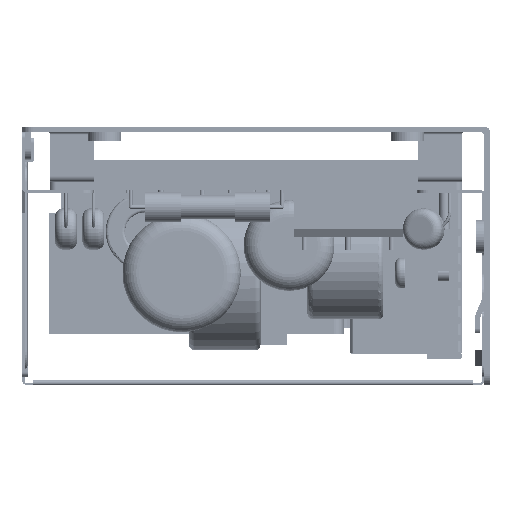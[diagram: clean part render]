
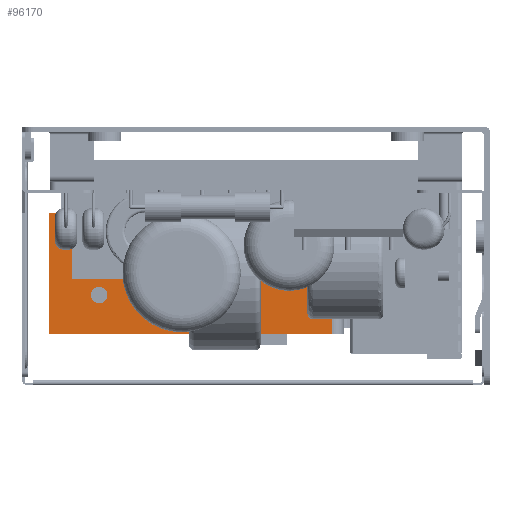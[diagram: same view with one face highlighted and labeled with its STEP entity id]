
A CAD part, front view. The second image highlights one B-rep face of the part: STEP entity #96170.
In plain terms, the highlighted planar face has unit normal (0, -1, 0) as drawn and (-1, 0, 0) by its records, which use the part's own axes.
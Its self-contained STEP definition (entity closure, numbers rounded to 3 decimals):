
#95786=DIRECTION('',(0.,-1.,0.));
#95787=VECTOR('',#95786,51.416);
#95788=CARTESIAN_POINT('',(-17.25,24.666,22.));
#95789=LINE('',#95788,#95787);
#95793=DIRECTION('',(0.,0.,-1.));
#95794=VECTOR('',#95793,22.);
#95795=CARTESIAN_POINT('',(-17.25,-26.75,22.));
#95796=LINE('',#95795,#95794);
#95800=DIRECTION('',(0.,1.,0.));
#95801=VECTOR('',#95800,51.416);
#95802=CARTESIAN_POINT('',(-17.25,-26.75,0.));
#95803=LINE('',#95802,#95801);
#95814=DIRECTION('',(0.,0.,-1.));
#95815=VECTOR('',#95814,22.);
#95816=CARTESIAN_POINT('',(-17.25,24.666,22.));
#95817=LINE('',#95816,#95815);
#96080=CARTESIAN_POINT('',(-17.25,-26.75,22.));
#96081=CARTESIAN_POINT('',(-17.25,-26.75,0.));
#96082=VERTEX_POINT('',#96080);
#96083=VERTEX_POINT('',#96081);
#96088=CARTESIAN_POINT('',(-17.25,24.666,22.));
#96089=CARTESIAN_POINT('',(-17.25,24.666,0.));
#96090=VERTEX_POINT('',#96088);
#96091=VERTEX_POINT('',#96089);
#96156=CARTESIAN_POINT('',(-17.25,24.666,0.));
#96157=DIRECTION('',(1.,0.,0.));
#96158=DIRECTION('',(0.,-1.,0.));
#96159=AXIS2_PLACEMENT_3D('',#96156,#96157,#96158);
#96160=PLANE('',#96159);
#96162=ORIENTED_EDGE('',*,*,#96161,.F.);
#96164=ORIENTED_EDGE('',*,*,#96163,.T.);
#96165=ORIENTED_EDGE('',*,*,#96145,.T.);
#96167=ORIENTED_EDGE('',*,*,#96166,.T.);
#96168=EDGE_LOOP('',(#96162,#96164,#96165,#96167));
#96169=FACE_OUTER_BOUND('',#96168,.F.);
#96145=EDGE_CURVE('',#96082,#96083,#95796,.T.);
#96161=EDGE_CURVE('',#96090,#96091,#95817,.T.);
#96163=EDGE_CURVE('',#96090,#96082,#95789,.T.);
#96166=EDGE_CURVE('',#96083,#96091,#95803,.T.);
#96170=ADVANCED_FACE('',(#96169),#96160,.F.);
